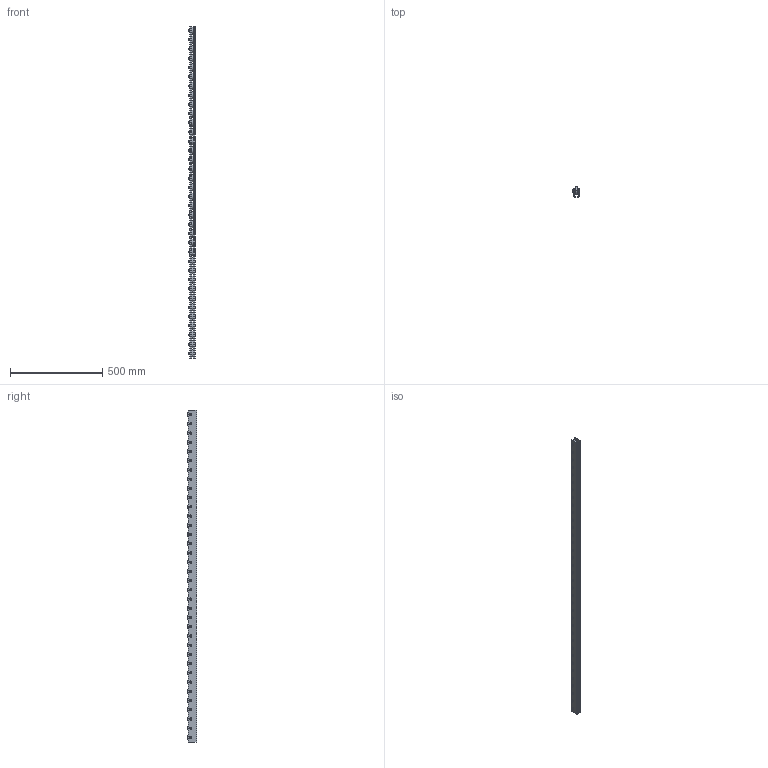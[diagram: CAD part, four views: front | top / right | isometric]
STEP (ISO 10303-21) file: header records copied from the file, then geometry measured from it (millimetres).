
FILE_DESCRIPTION (( 'STEP AP203' ), '1' );
FILE_NAME ('W-38TS.STEP', '2012-10-27T06:44:55', ( '' ), ( '' ), '', '', '' );
FILE_SCHEMA (( 'CONFIG_CONTROL_DESIGN' ));
Length unit declared in the file: millimetre
Products named in the file (6): W-38TS; hexagon nut_1_jis_JIS B 1181 Hexagon nut - Class 1 Finished M6 --N; spring lock washer_2_jis_JIS B 1251 No.2 6; M6; roller; frame
Assembly tree (146 placements, depth 2):
  W-38TS
    frame  x2
    roller  x36
    M6  x36
    spring lock washer_2_jis_JIS B 1251 No.2 6  x36
    hexagon nut_1_jis_JIS B 1181 Hexagon nut - Class 1 Finished M6 --N  x36
Bounding box: 41.99 x 52 x 1800 mm (x, y, z)
Volume: 988198.2 mm3; surface area: 606223.1 mm2
Topology: 146 solids, 146 shells, 2576 faces, 5520 edges, 3344 vertices
Faces by surface type: plane 916, cone 792, cylinder 724, torus 144
Entity records: 9946 total; most frequent: DIRECTION 1160, CARTESIAN_POINT 1042, ORIENTED_EDGE 760, AXIS2_PLACEMENT_3D 506, EDGE_CURVE 380, CALENDAR_DATE 322, DATE_AND_TIME 322, COORDINATED_UNIVERSAL_TIME_OFFSET 322
